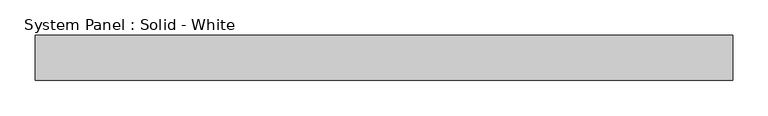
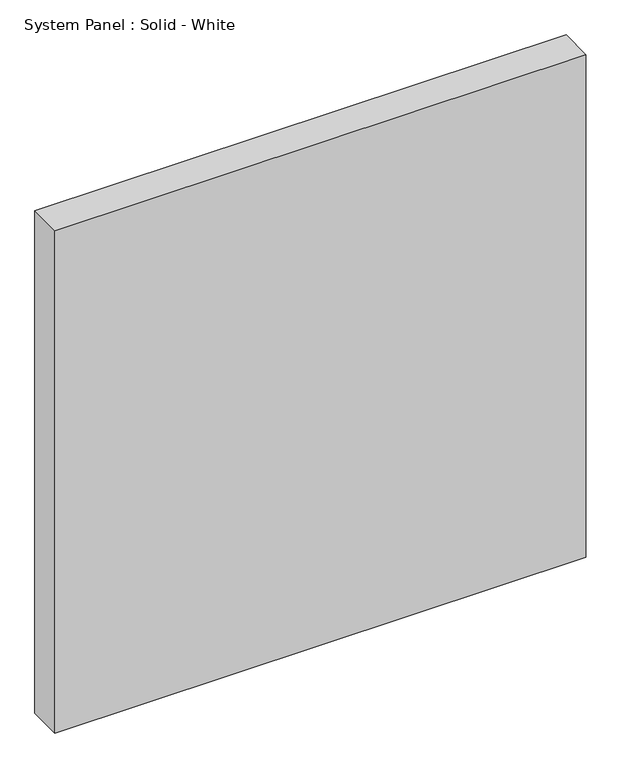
"""IFC4 building model written with IfcOpenShell, lengths in millimetres: plate geometry, System Panel : Solid - White."""

from ifc_helpers import new_model, si_unit, origin, origin_with_axes, place, context, project, spatial, polyline, outline, extrude, source, transform, mapped, element, save


def system_panel_solid_white_afa84dc3(model_context):
    return source(origin(), model_context, "Body", "SweptSolid", [
        extrude(outline(polyline([(492.125, -19.05), (-492.125, -19.05), (-492.125, 44.45), (492.125, 44.45), (492.125, -19.05)])), origin_with_axes(), (0.0, 0.0, 1.0), 984.3895219),
    ])


if __name__ == "__main__":
    model = new_model("IFC4")
    model_context = context("Model", 3, world=origin())
    ifc_project = project(units=[si_unit("LENGTHUNIT", "METRE", prefix="MILLI")], contexts=[model_context])
    site = spatial("IfcSite", under=ifc_project)
    building = spatial("IfcBuilding", under=site)
    placement = place(None, origin())
    system_panel_solid_white_shape = system_panel_solid_white_afa84dc3(model_context)
    element("IfcPlate", 1, ObjectType="System Panel : Solid - White", at=placement, inside=building, context=model_context, shape_type="MappedRepresentation", body=[
        mapped(system_panel_solid_white_shape, transform((0.0, 0.0, 0.0), x_axis=(1.0, 0.0, 0.0), y_axis=(0.0, 1.0, 0.0), z_axis=(0.0, 0.0, 1.0))),
    ])
    save(model, "model.ifc")
